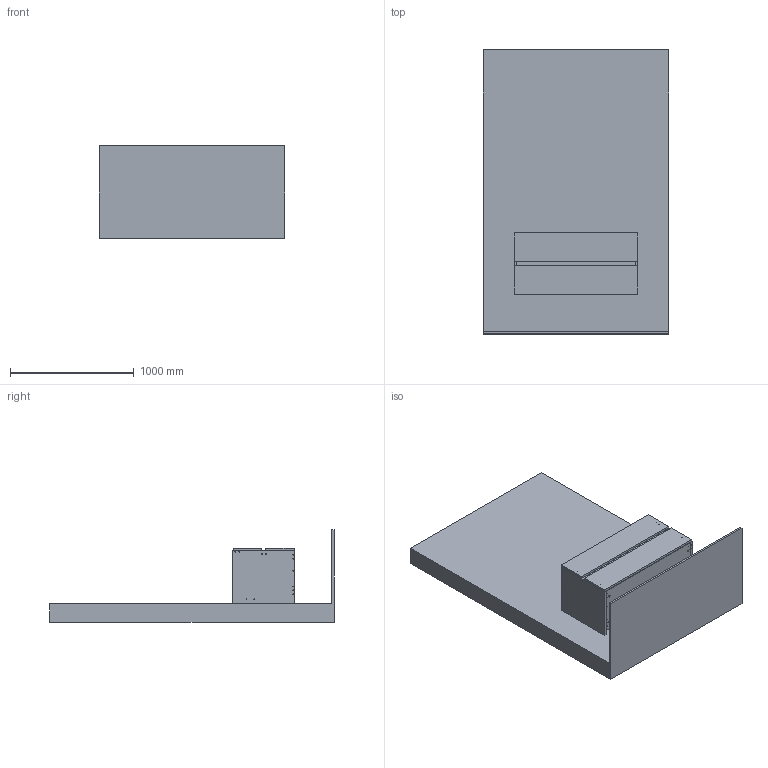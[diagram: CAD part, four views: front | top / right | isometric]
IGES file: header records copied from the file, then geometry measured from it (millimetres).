
Global section: file name: Sımple Lavabo Dolabı 3D,2; native system: 2HAutodesk Inventor 2024; preprocessor: unknown; author: pc19; date: 20250627.131738; units: millimetre
Bounding box: 1500 x 2300 x 750 mm (x, y, z)
Volume: 571239815 mm3; surface area: 15551800.3 mm2
Topology: 36 solids, 40 shells, 2533 faces, 6448 edges, 3999 vertices
Faces by surface type: bspline 2533
